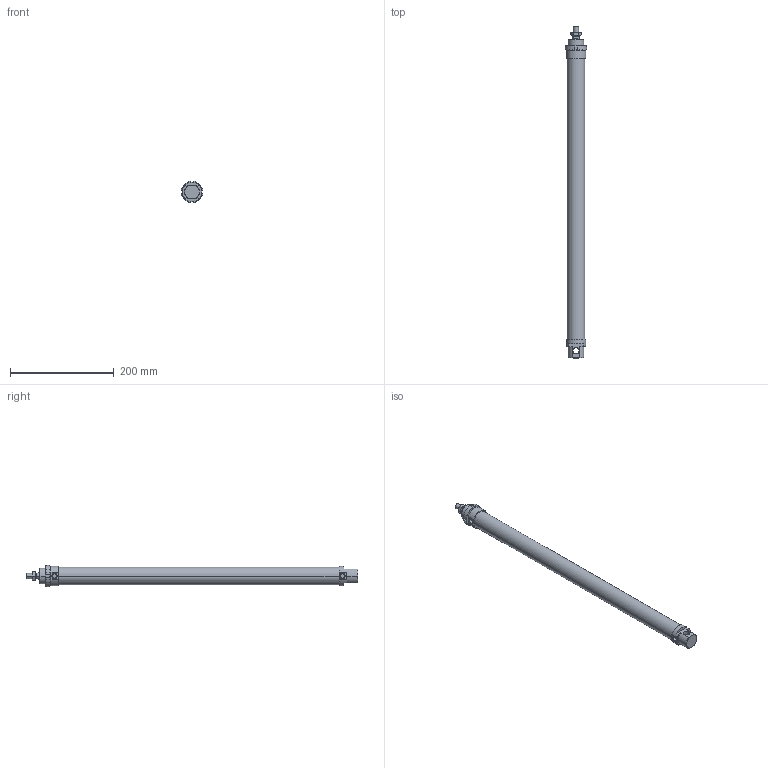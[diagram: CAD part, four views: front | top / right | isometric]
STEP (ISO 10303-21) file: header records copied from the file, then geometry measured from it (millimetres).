
FILE_DESCRIPTION((''),'2;1');
FILE_NAME('I:\DOC-EDP\Lib-3d\1200\CILINDRI\1280\1280_32_0500.stp','2003-04-07T19:05:45',('maffial1'),(''),'Autodesk Inventor (R) 6.0','Autodesk Inventor (R) 6.0','');
FILE_SCHEMA(('AUTOMOTIVE_DESIGN { 1 0 10303 214 1 1 1 1 }'));
Length unit declared in the file: millimetre
Products named in the file (5): 1280_32_0500; S1280_32_500; 1200_32_05; 1200_32_06; C1280_32_500
Assembly tree (4 placements, depth 2):
  1280_32_0500
    S1280_32_500
    1200_32_05
    1200_32_06
    C1280_32_500
Bounding box: 41.7 x 639 x 41.7 mm (x, y, z)
Volume: 545034.3 mm3; surface area: 113974.7 mm2
Topology: 4 solids, 4 shells, 122 faces, 286 edges, 180 vertices
Faces by surface type: plane 44, cone 32, cylinder 26, bspline 20
Entity records: 3831 total; most frequent: CARTESIAN_POINT 997, DIRECTION 582, ORIENTED_EDGE 572, EDGE_CURVE 286, AXIS2_PLACEMENT_3D 229, VERTEX_POINT 180, EDGE_LOOP 136, VECTOR 124
